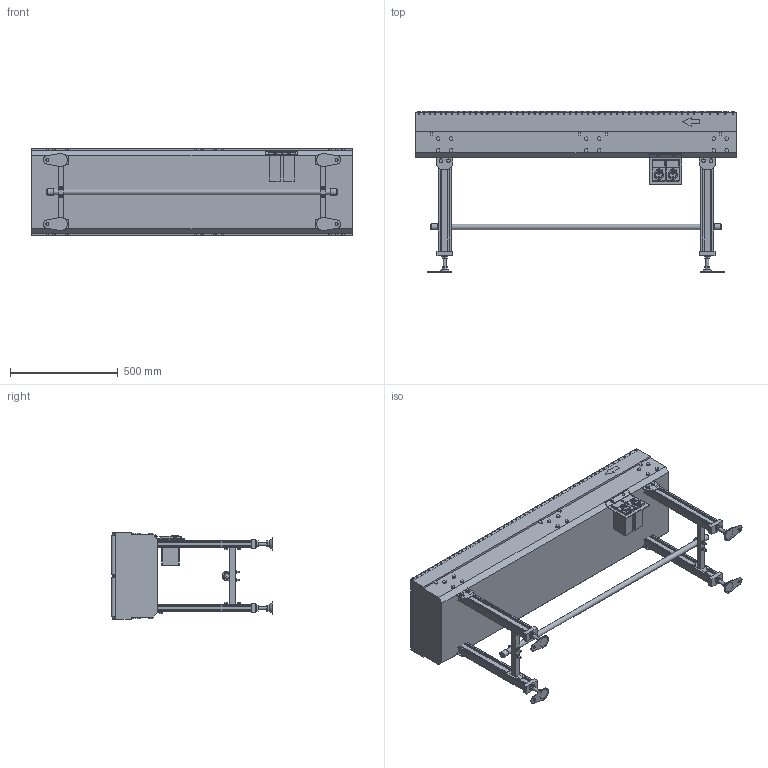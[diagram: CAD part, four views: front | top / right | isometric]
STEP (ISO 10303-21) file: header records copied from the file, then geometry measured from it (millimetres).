
FILE_DESCRIPTION (( 'STEP AP214' ), '1' );
FILE_NAME ('GA22-304x2-300-150-DC-7.5.STEP', '2024-08-08T23:12:24', ( '' ), ( '' ), 'SwSTEP 2.0', 'SolidWorks 2017', '' );
FILE_SCHEMA (( 'AUTOMOTIVE_DESIGN' ));
Length unit declared in the file: millimetre
Products named in the file (1): GA22-304x2-300-150-DC-7.5
Bounding box: 1490 x 750 x 403.66 mm (x, y, z)
Volume: 126763704.4 mm3; surface area: 4538351.4 mm2
Topology: 19 solids, 19 shells, 2417 faces, 6088 edges, 4068 vertices
Faces by surface type: plane 1660, cylinder 723, cone 18, torus 16
Full cylindrical faces by diameter (mm): 4.5 x8, 6 x106, 7 x4, 8 x212, 8.723 x8, 12.2 x2, 13 x4, 15.4 x40, 16 x8, 17 x12, 25.4 x1, 28.4 x2, 29.825 x2, 30 x4
Entity records: 68781 total; most frequent: CARTESIAN_POINT 13641, DIRECTION 11109, ORIENTED_EDGE 10818, EDGE_CURVE 5409, VERTEX_POINT 3828, AXIS2_PLACEMENT_3D 3718, VECTOR 3673, LINE 3673
